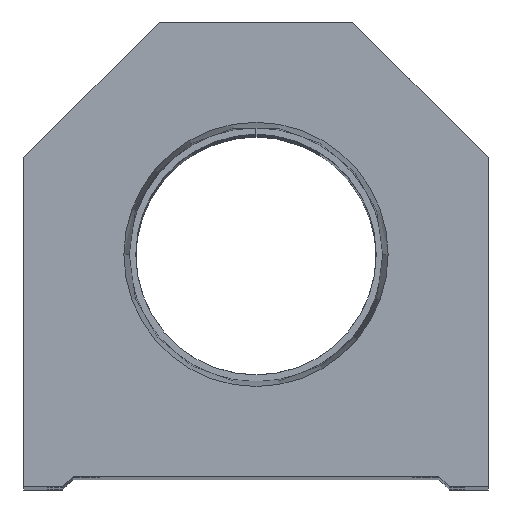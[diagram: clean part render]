
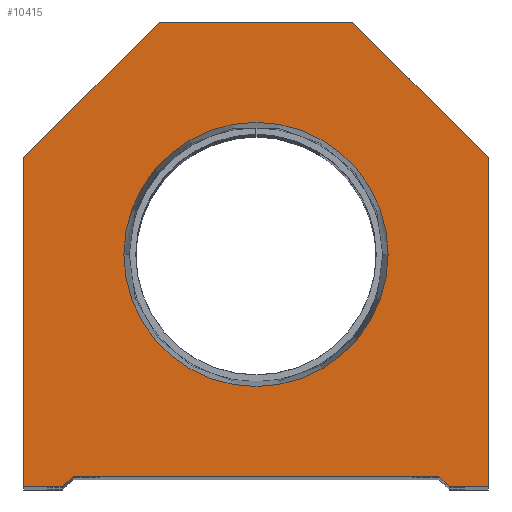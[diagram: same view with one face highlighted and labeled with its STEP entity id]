
A CAD part, top view. The second image highlights one B-rep face of the part: STEP entity #10415.
In plain terms, the highlighted planar face has unit normal (0, 0, 1).
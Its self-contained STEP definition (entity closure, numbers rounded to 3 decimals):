
#5 = EDGE_CURVE ( 'NONE', #9059, #341, #8125, .T. ) ;
#171 = EDGE_CURVE ( 'NONE', #12380, #2581, #9178, .T. ) ;
#174 = CARTESIAN_POINT ( 'NONE',  ( 18.5, 0., 0. ) ) ;
#274 = CARTESIAN_POINT ( 'NONE',  ( -9.25, 44.5, 0. ) ) ;
#304 = VERTEX_POINT ( 'NONE', #2769 ) ;
#341 = VERTEX_POINT ( 'NONE', #5986 ) ;
#349 = CARTESIAN_POINT ( 'NONE',  ( 17.5, 0., 0. ) ) ;
#564 = LINE ( 'NONE', #11039, #2384 ) ;
#583 = CARTESIAN_POINT ( 'NONE',  ( 9.25, 9.25, 0. ) ) ;
#601 = CARTESIAN_POINT ( 'NONE',  ( -12.647, 22.25, 0. ) ) ;
#607 = VERTEX_POINT ( 'NONE', #6840 ) ;
#641 = LINE ( 'NONE', #12121, #2215 ) ;
#645 = DIRECTION ( 'NONE',  ( 0.707, -0.707, 0. ) ) ;
#693 = DIRECTION ( 'NONE',  ( 1., 0., 0. ) ) ;
#820 = ORIENTED_EDGE ( 'NONE', *, *, #5, .T. ) ;
#985 = DIRECTION ( 'NONE',  ( 0., 0., 1. ) ) ;
#1274 = AXIS2_PLACEMENT_3D ( 'NONE', #1869, #985, #1998 ) ;
#1306 = LINE ( 'NONE', #5342, #6807 ) ;
#1440 = DIRECTION ( 'NONE',  ( 0., 1., 0. ) ) ;
#1550 = ORIENTED_EDGE ( 'NONE', *, *, #171, .T. ) ;
#1555 = ORIENTED_EDGE ( 'NONE', *, *, #4153, .T. ) ;
#1718 = EDGE_CURVE ( 'NONE', #2581, #7402, #8943, .T. ) ;
#1869 = CARTESIAN_POINT ( 'NONE',  ( 0., 22.25, 0. ) ) ;
#1981 = EDGE_LOOP ( 'NONE', ( #820, #7149, #2586, #1550, #11244, #4164, #10555, #9760, #1555, #8063 ) ) ;
#1998 = DIRECTION ( 'NONE',  ( 1., 0., 0. ) ) ;
#2134 = CARTESIAN_POINT ( 'NONE',  ( 22.25, 0., 0. ) ) ;
#2193 = LINE ( 'NONE', #10014, #8224 ) ;
#2215 = VECTOR ( 'NONE', #3530, 1000. ) ;
#2384 = VECTOR ( 'NONE', #10266, 1000. ) ;
#2405 = EDGE_CURVE ( 'NONE', #304, #11890, #564, .T. ) ;
#2581 = VERTEX_POINT ( 'NONE', #174 ) ;
#2586 = ORIENTED_EDGE ( 'NONE', *, *, #11298, .T. ) ;
#2659 = DIRECTION ( 'NONE',  ( -0.707, 0.707, 0. ) ) ;
#2696 = FACE_BOUND ( 'NONE', #9715, .T. ) ;
#2699 = DIRECTION ( 'NONE',  ( 1., 0., 0. ) ) ;
#2769 = CARTESIAN_POINT ( 'NONE',  ( 9.25, 44.5, 0. ) ) ;
#3139 = CARTESIAN_POINT ( 'NONE',  ( 12.647, 22.25, 0. ) ) ;
#3530 = DIRECTION ( 'NONE',  ( -0.707, -0.707, 0. ) ) ;
#3562 = EDGE_CURVE ( 'NONE', #7402, #8473, #11849, .T. ) ;
#3611 = EDGE_CURVE ( 'NONE', #6612, #9059, #2193, .T. ) ;
#3638 = PLANE ( 'NONE',  #10924 ) ;
#3641 = LINE ( 'NONE', #7482, #7757 ) ;
#3791 = VECTOR ( 'NONE', #1440, 1000. ) ;
#3856 = EDGE_CURVE ( 'NONE', #341, #607, #1306, .T. ) ;
#4153 = EDGE_CURVE ( 'NONE', #11890, #6612, #641, .T. ) ;
#4164 = ORIENTED_EDGE ( 'NONE', *, *, #3562, .T. ) ;
#4549 = CARTESIAN_POINT ( 'NONE',  ( 22.25, 31.5, 0. ) ) ;
#4571 = CARTESIAN_POINT ( 'NONE',  ( 0., 22.25, 0. ) ) ;
#4772 = FACE_OUTER_BOUND ( 'NONE', #1981, .T. ) ;
#4935 = ORIENTED_EDGE ( 'NONE', *, *, #6794, .F. ) ;
#4951 = EDGE_CURVE ( 'NONE', #10636, #10903, #6409, .T. ) ;
#5243 = VECTOR ( 'NONE', #9755, 1000. ) ;
#5342 = CARTESIAN_POINT ( 'NONE',  ( -9.25, 9.25, 0. ) ) ;
#5806 = CARTESIAN_POINT ( 'NONE',  ( 22.25, 0., 0. ) ) ;
#5834 = ORIENTED_EDGE ( 'NONE', *, *, #4951, .F. ) ;
#5986 = CARTESIAN_POINT ( 'NONE',  ( -18.5, 0., 0. ) ) ;
#6409 = CIRCLE ( 'NONE', #10791, 12.647 ) ;
#6606 = VECTOR ( 'NONE', #6885, 1000. ) ;
#6612 = VERTEX_POINT ( 'NONE', #10719 ) ;
#6654 = CARTESIAN_POINT ( 'NONE',  ( 0., 0., 0. ) ) ;
#6794 = EDGE_CURVE ( 'NONE', #10903, #10636, #10461, .T. ) ;
#6807 = VECTOR ( 'NONE', #7102, 1000. ) ;
#6840 = CARTESIAN_POINT ( 'NONE',  ( -17.5, 1., 0. ) ) ;
#6885 = DIRECTION ( 'NONE',  ( 1., 0., 0. ) ) ;
#7102 = DIRECTION ( 'NONE',  ( 0.707, 0.707, 0. ) ) ;
#7149 = ORIENTED_EDGE ( 'NONE', *, *, #3856, .T. ) ;
#7338 = CARTESIAN_POINT ( 'NONE',  ( -22.25, 0., 0. ) ) ;
#7377 = VECTOR ( 'NONE', #2659, 1000. ) ;
#7402 = VERTEX_POINT ( 'NONE', #5806 ) ;
#7428 = VECTOR ( 'NONE', #645, 1000. ) ;
#7482 = CARTESIAN_POINT ( 'NONE',  ( -17.5, 1., 0. ) ) ;
#7757 = VECTOR ( 'NONE', #2699, 1000. ) ;
#8063 = ORIENTED_EDGE ( 'NONE', *, *, #3611, .T. ) ;
#8125 = LINE ( 'NONE', #11944, #6606 ) ;
#8224 = VECTOR ( 'NONE', #8778, 1000. ) ;
#8473 = VERTEX_POINT ( 'NONE', #11675 ) ;
#8778 = DIRECTION ( 'NONE',  ( 0., -1., 0. ) ) ;
#8943 = LINE ( 'NONE', #349, #5243 ) ;
#9059 = VERTEX_POINT ( 'NONE', #7338 ) ;
#9178 = LINE ( 'NONE', #583, #7428 ) ;
#9308 = LINE ( 'NONE', #4549, #7377 ) ;
#9715 = EDGE_LOOP ( 'NONE', ( #5834, #4935 ) ) ;
#9755 = DIRECTION ( 'NONE',  ( 1., 0., 0. ) ) ;
#9760 = ORIENTED_EDGE ( 'NONE', *, *, #2405, .T. ) ;
#10014 = CARTESIAN_POINT ( 'NONE',  ( -22.25, 0., 0. ) ) ;
#10266 = DIRECTION ( 'NONE',  ( -1., 0., 0. ) ) ;
#10372 = DIRECTION ( 'NONE',  ( 0., 0., 1. ) ) ;
#10415 = ADVANCED_FACE ( 'NONE', ( #2696, #4772 ), #3638, .T. ) ;
#10456 = DIRECTION ( 'NONE',  ( 0., 0., 1. ) ) ;
#10461 = CIRCLE ( 'NONE', #1274, 12.647 ) ;
#10555 = ORIENTED_EDGE ( 'NONE', *, *, #12124, .T. ) ;
#10636 = VERTEX_POINT ( 'NONE', #3139 ) ;
#10719 = CARTESIAN_POINT ( 'NONE',  ( -22.25, 31.5, 0. ) ) ;
#10791 = AXIS2_PLACEMENT_3D ( 'NONE', #4571, #10372, #12158 ) ;
#10903 = VERTEX_POINT ( 'NONE', #601 ) ;
#10924 = AXIS2_PLACEMENT_3D ( 'NONE', #6654, #10456, #693 ) ;
#11039 = CARTESIAN_POINT ( 'NONE',  ( 9.25, 44.5, 0. ) ) ;
#11244 = ORIENTED_EDGE ( 'NONE', *, *, #1718, .T. ) ;
#11298 = EDGE_CURVE ( 'NONE', #607, #12380, #3641, .T. ) ;
#11675 = CARTESIAN_POINT ( 'NONE',  ( 22.25, 31.5, 0. ) ) ;
#11849 = LINE ( 'NONE', #2134, #3791 ) ;
#11890 = VERTEX_POINT ( 'NONE', #274 ) ;
#11944 = CARTESIAN_POINT ( 'NONE',  ( -17.5, 0., 0. ) ) ;
#12062 = CARTESIAN_POINT ( 'NONE',  ( 17.5, 1., 0. ) ) ;
#12121 = CARTESIAN_POINT ( 'NONE',  ( -22.25, 31.5, 0. ) ) ;
#12124 = EDGE_CURVE ( 'NONE', #8473, #304, #9308, .T. ) ;
#12158 = DIRECTION ( 'NONE',  ( 1., 0., 0. ) ) ;
#12380 = VERTEX_POINT ( 'NONE', #12062 ) ;
